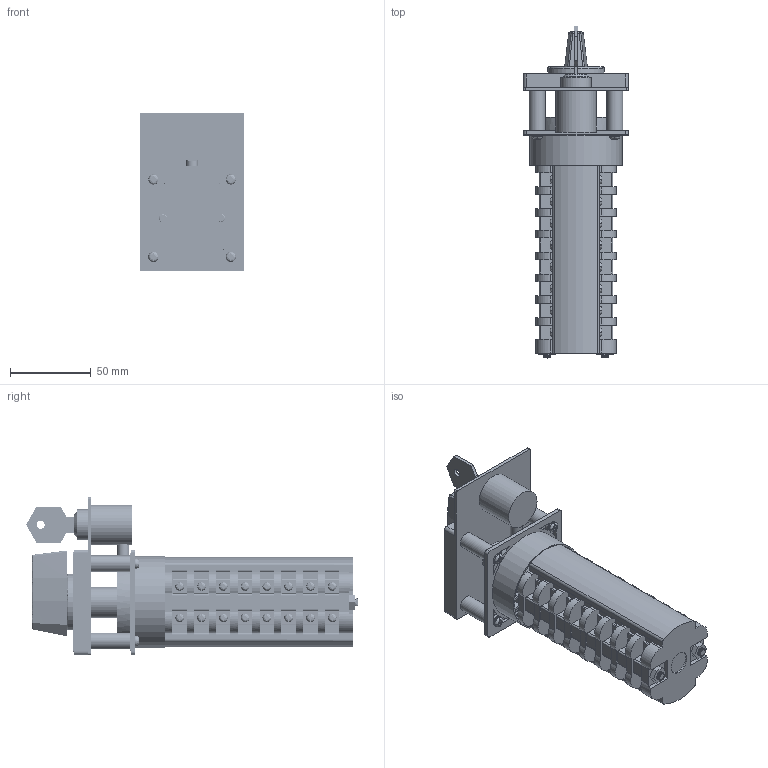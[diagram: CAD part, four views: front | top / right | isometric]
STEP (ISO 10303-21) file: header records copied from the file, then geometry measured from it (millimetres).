
FILE_DESCRIPTION(/* description */ (''),/* implementation_level */ '2;1');
FILE_NAME(/* name */ '4G16,25_S5_8_korpusow.stp',/* time_stamp */ '2021-07-21T12:23:05+02:00',/* author */ (''),/* organization */ (''),/* preprocessor_version */ 'ST-DEVELOPER v18.1',/* originating_system */ 'SIEMENS PLM Software NX 1965',/* authorisation */ '');
FILE_SCHEMA (('AUTOMOTIVE_DESIGN { 1 0 10303 214 3 1 1 1 }'));
Products named in the file (1): 4G16,25_S5_8_korpusow_stp
Bounding box: 65 x 205.6 x 97.5 mm (x, y, z)
Volume: 380582.8 mm3; surface area: 90145.1 mm2
Topology: 2 solids, 13 shells, 1879 faces, 5237 edges, 3456 vertices
Faces by surface type: plane 1121, cylinder 508, bspline 179, cone 68, sphere 2, torus 1
Full cylindrical faces by diameter (mm): 3.3 x2, 4 x4, 4.3 x4, 5 x3, 5.4 x33, 6.4 x4, 6.5 x2, 7.2 x4, 7.5 x1, 10 x5, 14 x1, 15.8 x1, 19 x2, 21.2 x1, 25 x1, 35 x1, 57 x1
Entity records: 171802 total; most frequent: CARTESIAN_POINT 125823, ORIENTED_EDGE 10050, DIRECTION 8616, EDGE_CURVE 5025, VERTEX_POINT 3360, AXIS2_PLACEMENT_3D 3097, LINE 2422, VECTOR 2422
